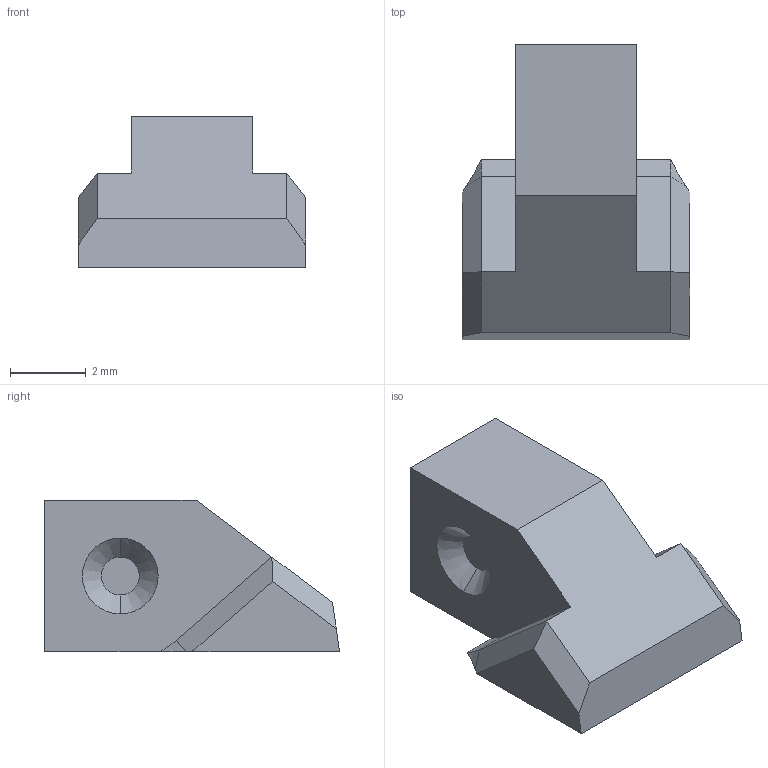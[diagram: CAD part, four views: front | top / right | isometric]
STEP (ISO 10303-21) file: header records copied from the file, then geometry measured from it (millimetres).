
FILE_DESCRIPTION (( 'STEP AP214' ), '1' );
FILE_NAME ('Paw.STEP', '2023-12-23T22:27:45', ( '' ), ( '' ), 'SwSTEP 2.0', 'SolidWorks 2023', '' );
FILE_SCHEMA (( 'AUTOMOTIVE_DESIGN' ));
Length unit declared in the file: millimetre
Products named in the file (1): Paw
Bounding box: 6 x 7.79 x 4 mm (x, y, z)
Volume: 97.8 mm3; surface area: 151.4 mm2
Topology: 1 solids, 1 shells, 25 faces, 59 edges, 38 vertices
Faces by surface type: plane 17, cone 6, cylinder 2
Entity records: 738 total; most frequent: CARTESIAN_POINT 129, DIRECTION 121, ORIENTED_EDGE 118, EDGE_CURVE 59, LINE 45, VECTOR 45, VERTEX_POINT 38, AXIS2_PLACEMENT_3D 38
